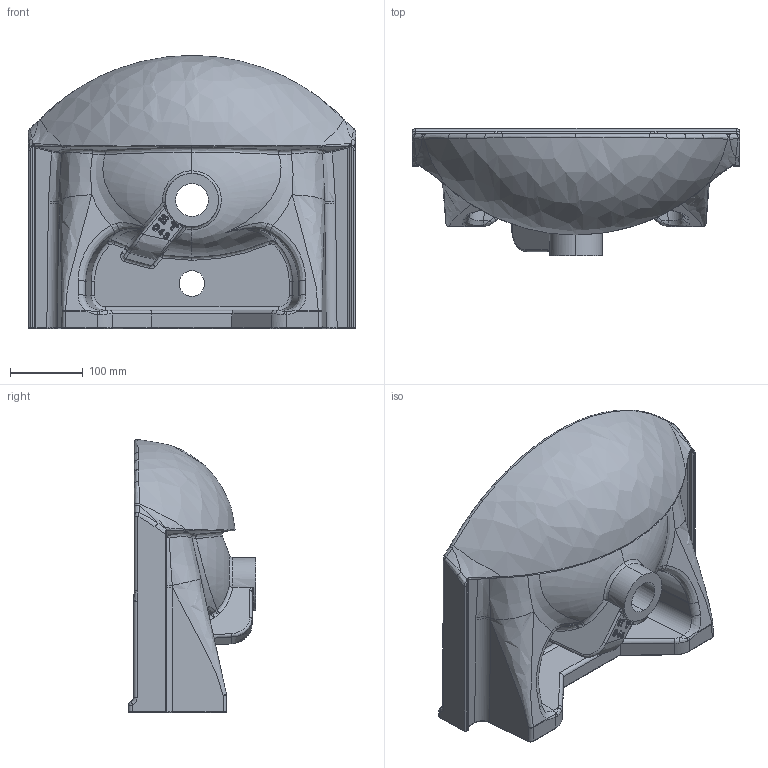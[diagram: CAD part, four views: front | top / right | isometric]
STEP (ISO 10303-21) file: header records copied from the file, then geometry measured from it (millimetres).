
FILE_DESCRIPTION (( 'STEP AP203' ), '1' );
FILE_NAME ('ET045.STEP', '2022-04-15T11:36:01', ( '' ), ( '' ), 'SwSTEP 2.0', 'SolidWorks 2021', '' );
FILE_SCHEMA (( 'CONFIG_CONTROL_DESIGN' ));
Length unit declared in the file: millimetre
Products named in the file (1): ET045
Bounding box: 449.93 x 175 x 375.13 mm (x, y, z)
Volume: 7121620.1 mm3; surface area: 611154.7 mm2
Topology: 2 solids, 3 shells, 657 faces, 1587 edges, 925 vertices
Faces by surface type: bspline 232, cylinder 194, torus 127, plane 87, sphere 15, cone 2
Entity records: 45035 total; most frequent: CARTESIAN_POINT 31274, ORIENTED_EDGE 3138, DIRECTION 2574, EDGE_CURVE 1569, AXIS2_PLACEMENT_3D 1085, VERTEX_POINT 922, EDGE_LOOP 671, CIRCLE 659
